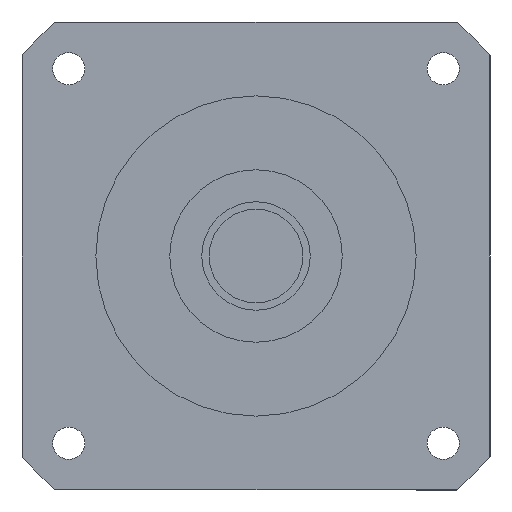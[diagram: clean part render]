
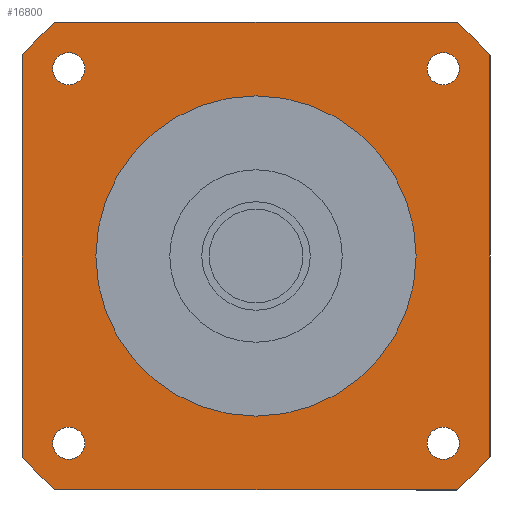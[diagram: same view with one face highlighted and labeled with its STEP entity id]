
A CAD part, left-side view. The second image highlights one B-rep face of the part: STEP entity #16800.
In plain terms, the highlighted planar face has unit normal (-1, 0, 0) as drawn and (0, 0, -1) by its records, which use the part's own axes.
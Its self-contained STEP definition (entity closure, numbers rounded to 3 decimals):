
#13100=CARTESIAN_POINT('',(95.,-81.24,-84.7));
#13110=VERTEX_POINT('',#13100);
#13160=CARTESIAN_POINT('',(0.,0.,
-84.7));
#13170=DIRECTION('',(0.,0.,-1.));
#13180=DIRECTION('',(1.,0.,0.));
#13190=AXIS2_PLACEMENT_3D('',#13160,#13170,#13180);
#13200=CIRCLE('',#13190,125.);
#13210=CARTESIAN_POINT('',(81.24,-95.,-84.7));
#13220=VERTEX_POINT('',#13210);
#13230=EDGE_CURVE('',#13110,#13220,#13200,.T.);
#13520=CARTESIAN_POINT('',(-81.24,-95.,-84.7));
#13530=VERTEX_POINT('',#13520);
#13580=CARTESIAN_POINT('',(0.,0.,
-84.7));
#13590=DIRECTION('',(0.,0.,-1.));
#13600=DIRECTION('',(1.,0.,0.));
#13610=AXIS2_PLACEMENT_3D('',#13580,#13590,#13600);
#13620=CIRCLE('',#13610,125.);
#13630=CARTESIAN_POINT('',(-95.,-81.24,-84.7));
#13640=VERTEX_POINT('',#13630);
#13650=EDGE_CURVE('',#13530,#13640,#13620,.T.);
#15330=CARTESIAN_POINT('',(69.514,-76.014,-84.7));
#15340=VERTEX_POINT('',#15330);
#15370=CARTESIAN_POINT('',(76.014,-76.014,-84.7));
#15380=DIRECTION('',(0.,0.,-1.));
#15390=DIRECTION('',(1.,0.,0.));
#15400=AXIS2_PLACEMENT_3D('',#15370,#15380,#15390);
#15410=CIRCLE('',#15400,6.5);
#15420=CARTESIAN_POINT('',(82.514,-76.014,-84.7));
#15430=VERTEX_POINT('',#15420);
#15440=EDGE_CURVE('',#15430,#15340,#15410,.T.);
#15560=CARTESIAN_POINT('',(95.,95.,-84.7));
#15570=DIRECTION('',(0.,0.,-1.));
#15580=DIRECTION('',(1.,0.,0.));
#15590=AXIS2_PLACEMENT_3D('',#15560,#15570,#15580);
#15600=PLANE('',#15590);
#15610=CARTESIAN_POINT('',(-76.014,76.014,-84.7));
#15620=DIRECTION('',(0.,0.,-1.));
#15630=DIRECTION('',(-1.,0.,0.));
#15640=AXIS2_PLACEMENT_3D('',#15610,#15620,#15630);
#15650=CIRCLE('',#15640,6.5);
#15660=CARTESIAN_POINT('',(-82.514,76.014,-84.7));
#15670=VERTEX_POINT('',#15660);
#15680=CARTESIAN_POINT('',(-69.514,76.014,-84.7));
#15690=VERTEX_POINT('',#15680);
#15700=EDGE_CURVE('',#15670,#15690,#15650,.T.);
#15710=ORIENTED_EDGE('',*,*,#15700,.F.);
#15720=EDGE_CURVE('',#15690,#15670,#15650,.T.);
#15730=ORIENTED_EDGE('',*,*,#15720,.F.);
#15740=EDGE_LOOP('',(#15730,#15710));
#15750=FACE_BOUND('',#15740,.T.);
#15760=CARTESIAN_POINT('',(76.014,76.014,-84.7));
#15770=DIRECTION('',(0.,0.,-1.));
#15780=DIRECTION('',(0.,1.,0.));
#15790=AXIS2_PLACEMENT_3D('',#15760,#15770,#15780);
#15800=CIRCLE('',#15790,6.5);
#15810=CARTESIAN_POINT('',(76.014,82.514,-84.7));
#15820=VERTEX_POINT('',#15810);
#15830=CARTESIAN_POINT('',(76.014,69.514,-84.7));
#15840=VERTEX_POINT('',#15830);
#15850=EDGE_CURVE('',#15820,#15840,#15800,.T.);
#15860=ORIENTED_EDGE('',*,*,#15850,.F.);
#15870=EDGE_CURVE('',#15840,#15820,#15800,.T.);
#15880=ORIENTED_EDGE('',*,*,#15870,.F.);
#15890=EDGE_LOOP('',(#15880,#15860));
#15900=FACE_BOUND('',#15890,.T.);
#15910=CARTESIAN_POINT('',(0.,0.,
-84.7));
#15920=DIRECTION('',(0.,0.,1.));
#15930=DIRECTION('',(0.,1.,0.));
#15940=AXIS2_PLACEMENT_3D('',#15910,#15920,#15930);
#15950=CIRCLE('',#15940,65.);
#15960=CARTESIAN_POINT('',(-65.,0.,-84.7));
#15970=VERTEX_POINT('',#15960);
#15980=CARTESIAN_POINT('',(65.,0.,-84.7));
#15990=VERTEX_POINT('',#15980);
#16000=EDGE_CURVE('',#15970,#15990,#15950,.T.);
#16010=ORIENTED_EDGE('',*,*,#16000,.T.);
#16020=CARTESIAN_POINT('',(0.,65.,-84.7));
#16030=VERTEX_POINT('',#16020);
#16040=EDGE_CURVE('',#16030,#15970,#15950,.T.);
#16050=ORIENTED_EDGE('',*,*,#16040,.T.);
#16060=EDGE_CURVE('',#15990,#16030,#15950,.T.);
#16070=ORIENTED_EDGE('',*,*,#16060,.T.);
#16080=EDGE_LOOP('',(#16070,#16050,#16010));
#16090=FACE_BOUND('',#16080,.T.);
#16100=ORIENTED_EDGE('',*,*,#15440,.F.);
#16110=EDGE_CURVE('',#15340,#15430,#15410,.T.);
#16120=ORIENTED_EDGE('',*,*,#16110,.F.);
#16130=EDGE_LOOP('',(#16120,#16100));
#16140=FACE_BOUND('',#16130,.T.);
#16150=CARTESIAN_POINT('',(-76.014,-76.014,-84.7));
#16160=DIRECTION('',(0.,0.,-1.));
#16170=DIRECTION('',(0.,-1.,0.));
#16180=AXIS2_PLACEMENT_3D('',#16150,#16160,#16170);
#16190=CIRCLE('',#16180,6.5);
#16200=CARTESIAN_POINT('',(-76.014,-82.514,-84.7));
#16210=VERTEX_POINT('',#16200);
#16220=CARTESIAN_POINT('',(-76.014,-69.514,-84.7));
#16230=VERTEX_POINT('',#16220);
#16240=EDGE_CURVE('',#16210,#16230,#16190,.T.);
#16250=ORIENTED_EDGE('',*,*,#16240,.F.);
#16260=EDGE_CURVE('',#16230,#16210,#16190,.T.);
#16270=ORIENTED_EDGE('',*,*,#16260,.F.);
#16280=EDGE_LOOP('',(#16270,#16250));
#16290=FACE_BOUND('',#16280,.T.);
#16300=CARTESIAN_POINT('',(-95.,95.,-84.7));
#16310=DIRECTION('',(1.,0.,0.));
#16320=VECTOR('',#16310,1000.);
#16330=LINE('',#16300,#16320);
#16340=CARTESIAN_POINT('',(-81.24,95.,-84.7));
#16350=VERTEX_POINT('',#16340);
#16360=CARTESIAN_POINT('',(81.24,95.,-84.7));
#16370=VERTEX_POINT('',#16360);
#16380=EDGE_CURVE('',#16350,#16370,#16330,.T.);
#16390=ORIENTED_EDGE('',*,*,#16380,.T.);
#16400=CARTESIAN_POINT('',(0.,0.,
-84.7));
#16410=DIRECTION('',(0.,0.,-1.));
#16420=DIRECTION('',(1.,0.,0.));
#16430=AXIS2_PLACEMENT_3D('',#16400,#16410,#16420);
#16440=CIRCLE('',#16430,125.);
#16450=CARTESIAN_POINT('',(-95.,81.24,-84.7));
#16460=VERTEX_POINT('',#16450);
#16470=EDGE_CURVE('',#16460,#16350,#16440,.T.);
#16480=ORIENTED_EDGE('',*,*,#16470,.T.);
#16490=CARTESIAN_POINT('',(-95.,-95.,-84.7));
#16500=DIRECTION('',(0.,1.,0.));
#16510=VECTOR('',#16500,1000.);
#16520=LINE('',#16490,#16510);
#16530=EDGE_CURVE('',#13640,#16460,#16520,.T.);
#16540=ORIENTED_EDGE('',*,*,#16530,.T.);
#16550=ORIENTED_EDGE('',*,*,#13650,.T.);
#16560=CARTESIAN_POINT('',(95.,-95.,-84.7));
#16570=DIRECTION('',(-1.,0.,0.));
#16580=VECTOR('',#16570,1000.);
#16590=LINE('',#16560,#16580);
#16600=EDGE_CURVE('',#13220,#13530,#16590,.T.);
#16610=ORIENTED_EDGE('',*,*,#16600,.T.);
#16620=ORIENTED_EDGE('',*,*,#13230,.T.);
#16630=CARTESIAN_POINT('',(95.,95.,-84.7));
#16640=DIRECTION('',(0.,-1.,0.));
#16650=VECTOR('',#16640,1000.);
#16660=LINE('',#16630,#16650);
#16670=CARTESIAN_POINT('',(95.,81.24,-84.7));
#16680=VERTEX_POINT('',#16670);
#16690=EDGE_CURVE('',#16680,#13110,#16660,.T.);
#16700=ORIENTED_EDGE('',*,*,#16690,.T.);
#16710=CARTESIAN_POINT('',(0.,0.,
-84.7));
#16720=DIRECTION('',(0.,0.,-1.));
#16730=DIRECTION('',(1.,0.,0.));
#16740=AXIS2_PLACEMENT_3D('',#16710,#16720,#16730);
#16750=CIRCLE('',#16740,125.);
#16760=EDGE_CURVE('',#16370,#16680,#16750,.T.);
#16770=ORIENTED_EDGE('',*,*,#16760,.T.);
#16780=EDGE_LOOP('',(#16770,#16700,#16620,#16610,#16550,#16540,#16480,
#16390));
#16790=FACE_OUTER_BOUND('',#16780,.T.);
#16800=ADVANCED_FACE('',(#15750,#15900,#16090,#16140,#16290,#16790),
#15600,.T.);
